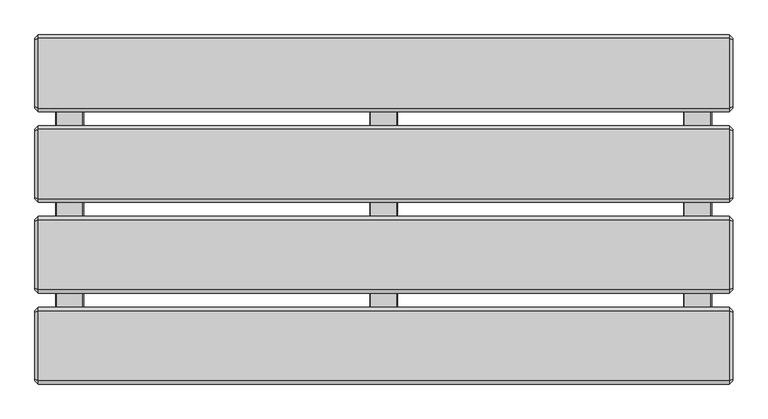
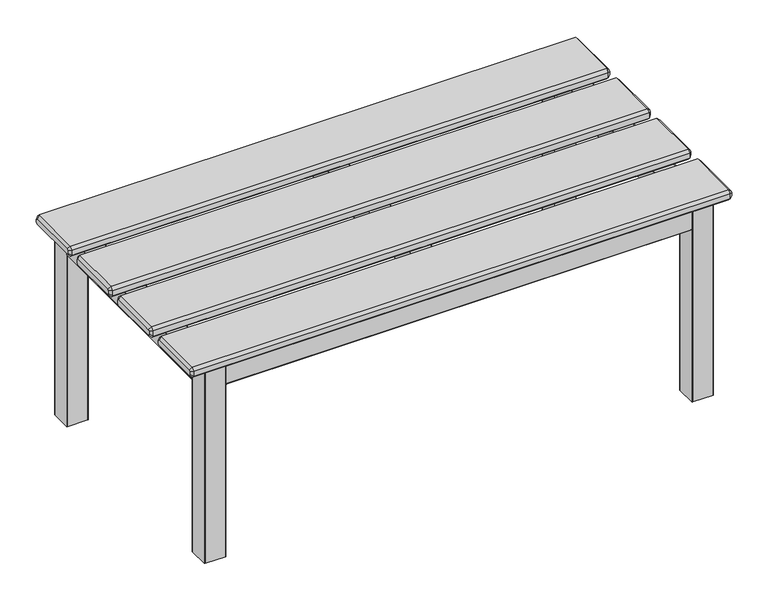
"""IFC4 building model written with IfcOpenShell, lengths in millimetres: furniture geometry, Senator_Lockers_SenseiQ_ChangingRoomBench : SIQ-CRBEN10."""

import ifcopenshell
import ifcopenshell.guid

model = None  # the IFC model being written
_history = None  # IfcOwnerHistory: only IFC2X3 demands one
_inside = {}  # id of a spatial element -> (the spatial element, [elements in it])
_under = {}  # id of a project, library or spatial element -> (it, [spatial elements below it])
_declared = {}  # id of a project -> (the project, [libraries it declares])
_typed = {}  # id of a type object -> (the type object, [elements of that type])
_made_of = {}  # id of a material, layer set ... -> (it, [elements and type objects made of it])


def new_model(schema):
    """Start an empty IFC model of exactly this schema.

    Asked for "IFC4X3", IfcOpenShell would pick the latest addendum, in which some entities
    have other attributes; the version numbers below select the first issue.
    IFC2X3 requires an IfcOwnerHistory on every rooted entity: one is made here for all.
    """
    global model, _history
    if schema == "IFC4X3":
        model = ifcopenshell.file(schema_version=(4, 3, 0, 0))
    else:
        model = ifcopenshell.file(schema=schema)
    _inside.clear()
    _under.clear()
    _declared.clear()
    _typed.clear()
    _made_of.clear()
    _history = None
    if model.schema == "IFC2X3":
        org = make("IfcOrganization", Name="unknown")
        user = make(
            "IfcPersonAndOrganization",
            ThePerson=make("IfcPerson", FamilyName="unknown"),
            TheOrganization=org,
        )
        app = make(
            "IfcApplication",
            ApplicationDeveloper=org,
            Version="unknown",
            ApplicationFullName="unknown",
            ApplicationIdentifier="unknown",
        )
        _history = make(
            "IfcOwnerHistory",
            OwningUser=user,
            OwningApplication=app,
            ChangeAction="ADDED",
            CreationDate=0,
        )
    return model


def make(cls, **values):
    """One entity of the class cls with the attributes given. An attribute that is None is left unset."""
    return model.create_entity(
        cls, **{name: value for name, value in values.items() if value is not None}
    )


def rooted(cls, **values):
    """An entity with a GlobalId (a new one), such as an element, a storey or a relation."""
    return make(cls, GlobalId=ifcopenshell.guid.new(), OwnerHistory=_history, **values)


def si_unit(unit_type, name, prefix=None):
    """IfcSIUnit, for example si_unit("LENGTHUNIT", "METRE", prefix="MILLI")."""
    return make("IfcSIUnit", UnitType=unit_type, Prefix=prefix, Name=name)


def assignment(units):
    """IfcUnitAssignment: the units of a project."""
    return None if units is None else make("IfcUnitAssignment", Units=units)


def point(xyz):
    """IfcCartesianPoint."""
    return None if xyz is None else make("IfcCartesianPoint", Coordinates=xyz)


def direction(xyz):
    """IfcDirection."""
    return None if xyz is None else make("IfcDirection", DirectionRatios=xyz)


def frame(location, z_axis=None, x_axis=None):
    """IfcAxis2Placement3D, a coordinate frame: its origin and axes. An axis left out is left unset."""
    return make(
        "IfcAxis2Placement3D",
        Location=point(location),
        Axis=direction(z_axis),
        RefDirection=direction(x_axis),
    )


def frame_2d(location, x_axis=None):
    """IfcAxis2Placement2D, a coordinate frame in the plane: its origin and x axis."""
    return make(
        "IfcAxis2Placement2D", Location=point(location), RefDirection=direction(x_axis)
    )


def origin():
    """The frame at (0, 0, 0) with its axes left unset."""
    return frame((0.0, 0.0, 0.0))


def origin_with_axes():
    """The frame at (0, 0, 0) with the z axis (0, 0, 1) and the x axis (1, 0, 0) written out."""
    return frame((0.0, 0.0, 0.0), z_axis=(0.0, 0.0, 1.0), x_axis=(1.0, 0.0, 0.0))


def place(relative_to, where):
    """IfcLocalPlacement: puts the frame where relative to a parent placement (None: the world)."""
    return make(
        "IfcLocalPlacement", PlacementRelTo=relative_to, RelativePlacement=where
    )


def context(
    kind, dimensions, precision=None, world=None, true_north=None, identifier=None
):
    """IfcGeometricRepresentationContext, for example the 3D "Model" context."""
    return make(
        "IfcGeometricRepresentationContext",
        ContextIdentifier=identifier,
        ContextType=kind,
        CoordinateSpaceDimension=dimensions,
        Precision=precision,
        WorldCoordinateSystem=world,
        TrueNorth=true_north,
    )


def project(units=None, contexts=None):
    """IfcProject with its units and contexts."""
    return rooted(
        "IfcProject",
        Name="project",
        RepresentationContexts=contexts,
        UnitsInContext=assignment(units),
    )


def spatial(cls, under=None, at=None, **own):
    """A site, building, storey or space (cls), placed at a placement, below another one or the project."""
    s = rooted(cls, ObjectPlacement=at, **own)
    if under is not None:
        _under.setdefault(under.id(), (under, []))[1].append(s)
    return s


def polyline(points):
    """IfcPolyline through the points."""
    return make("IfcPolyline", Points=[point(p) for p in points])


def circle_curve(where, radius):
    """IfcCircle in the frame where."""
    return make("IfcCircle", Position=where, Radius=radius)


def trimmed(basis, trim1, trim2, sense, master):
    """IfcTrimmedCurve: the piece of a basis curve between two trims."""
    return make(
        "IfcTrimmedCurve",
        BasisCurve=basis,
        Trim1=trim1,
        Trim2=trim2,
        SenseAgreement=sense,
        MasterRepresentation=master,
    )


def segment(curve, same_sense, transition):
    """IfcCompositeCurveSegment."""
    return make(
        "IfcCompositeCurveSegment",
        Transition=transition,
        SameSense=same_sense,
        ParentCurve=curve,
    )


def composite_curve(segments, self_intersect=None):
    """IfcCompositeCurve: segments joined end to end."""
    return make("IfcCompositeCurve", Segments=segments, SelfIntersect=self_intersect)


def outline(outer, holes=None, kind="AREA"):
    """IfcArbitraryClosedProfileDef: a profile drawn as a closed curve; with holes, ...WithVoids."""
    if holes is None:
        return make("IfcArbitraryClosedProfileDef", ProfileType=kind, OuterCurve=outer)
    return make(
        "IfcArbitraryProfileDefWithVoids",
        ProfileType=kind,
        OuterCurve=outer,
        InnerCurves=holes,
    )


def extrude(swept, where, along, depth):
    """IfcExtrudedAreaSolid: the profile swept, set in the frame where, extruded along a direction by depth."""
    return make(
        "IfcExtrudedAreaSolid",
        SweptArea=swept,
        Position=where,
        ExtrudedDirection=direction(along),
        Depth=depth,
    )


def faces_of(points, faces, orient=None, outer=None):
    """IfcFace entities. A face is a list of loops; a loop is a list of indices into points, from 0.

    orient and outer hold one flag for each loop. By default every Orientation is true, the
    first loop of a face is its IfcFaceOuterBound and the others are IfcFaceBound.
    """
    made = []
    for i, loops in enumerate(faces):
        bounds = []
        for j, loop in enumerate(loops):
            is_outer = j == 0 if outer is None else outer[i][j]
            bounds.append(
                make(
                    "IfcFaceOuterBound" if is_outer else "IfcFaceBound",
                    Bound=make("IfcPolyLoop", Polygon=[points[k] for k in loop]),
                    Orientation=True if orient is None else orient[i][j],
                )
            )
        made.append(make("IfcFace", Bounds=bounds))
    return made


def faceted_brep(points, faces, orient=None, outer=None, voids=None):
    """IfcFacetedBrep: a solid bounded by flat faces; with voids (closed shells), ...WithVoids."""
    shared = [point(p) for p in points]
    hull = make("IfcClosedShell", CfsFaces=faces_of(shared, faces, orient, outer))
    if voids is None:
        return make("IfcFacetedBrep", Outer=hull)
    return make(
        "IfcFacetedBrepWithVoids",
        Outer=hull,
        Voids=[
            make(cls, CfsFaces=faces_of(shared, fs, o, b)) for cls, fs, o, b in voids
        ],
    )


def shape(context_of_items, identifier, shape_type, items):
    """IfcShapeRepresentation: the items that make up one representation, for example the "Body"."""
    return make(
        "IfcShapeRepresentation",
        ContextOfItems=context_of_items,
        RepresentationIdentifier=identifier,
        RepresentationType=shape_type,
        Items=items,
    )


def source(mapping_origin, context_of_items, identifier, shape_type, items):
    """IfcRepresentationMap: a shape defined once, which mapped items show again and again."""
    return make(
        "IfcRepresentationMap",
        MappingOrigin=mapping_origin,
        MappedRepresentation=shape(context_of_items, identifier, shape_type, items),
    )


def transform(
    local_origin,
    x_axis=None,
    y_axis=None,
    z_axis=None,
    scale=None,
    scale2=None,
    scale3=None,
    uniform=True,
):
    """IfcCartesianTransformationOperator3D, or its non-uniform kind. x_axis, y_axis, z_axis: its Axis1, 2, 3."""
    if uniform:
        return make(
            "IfcCartesianTransformationOperator3D",
            Axis1=direction(x_axis),
            Axis2=direction(y_axis),
            LocalOrigin=point(local_origin),
            Scale=scale,
            Axis3=direction(z_axis),
        )
    return make(
        "IfcCartesianTransformationOperator3DnonUniform",
        Axis1=direction(x_axis),
        Axis2=direction(y_axis),
        LocalOrigin=point(local_origin),
        Scale=scale,
        Axis3=direction(z_axis),
        Scale2=scale2,
        Scale3=scale3,
    )


def mapped(mapping_source, mapping_target):
    """IfcMappedItem: shows the shape of a source again, moved by a transform."""
    return make(
        "IfcMappedItem", MappingSource=mapping_source, MappingTarget=mapping_target
    )


def made_of(thing, what):
    """Note that an element or type object is made of a material, layer set ...; save() writes the relation."""
    if what is not None:
        _made_of.setdefault(what.id(), (what, []))[1].append(thing)
    return thing


def element(
    cls,
    number,
    at=None,
    inside=None,
    cuts=None,
    type_object=None,
    material=None,
    context=None,
    identifier="Body",
    shape_type=None,
    held_by="IfcProductDefinitionShape",
    body=None,
    shapes=None,
    **own,
):
    """One element of the class cls, such as IfcWall. Its Tag is "e" and its number.

    at: its placement. inside: the storey or other place that contains it. cuts: it is an
    opening in that element (IfcRelVoidsElement). A single representation is given by context,
    identifier, shape_type and body (its items); several are given by shapes. held_by: the class
    of the entity that holds the representations. save() writes the other relations.
    """
    e = rooted(cls, Tag="e%d" % number, ObjectPlacement=at, **own)
    if body is not None:
        shapes = [shape(context, identifier, shape_type, body)]
    if shapes is not None:
        e.Representation = make(held_by, Representations=shapes)
    if inside is not None:
        _inside.setdefault(inside.id(), (inside, []))[1].append(e)
    if cuts is not None:
        rooted(
            "IfcRelVoidsElement", RelatingBuildingElement=cuts, RelatedOpeningElement=e
        )
    if type_object is not None:
        _typed.setdefault(type_object.id(), (type_object, []))[1].append(e)
    return made_of(e, material)


def aggregate(whole, parts):
    """IfcRelAggregates: a whole, such as a stair, and the parts it consists of."""
    return rooted("IfcRelAggregates", RelatingObject=whole, RelatedObjects=parts)


def save(model, path):
    """Write the relations noted so far, then the file.

    IfcRelAggregates (storeys below a building ...), IfcRelContainedInSpatialStructure (elements
    in a storey), IfcRelDefinesByType, IfcRelAssociatesMaterial and IfcRelDeclares: one each for
    every whole, place, type object, material and project.
    """
    for whole, parts in _under.values():
        aggregate(whole, parts)
    for where, things in _inside.values():
        rooted(
            "IfcRelContainedInSpatialStructure",
            RelatedElements=things,
            RelatingStructure=where,
        )
    for kind, things in _typed.values():
        rooted("IfcRelDefinesByType", RelatedObjects=things, RelatingType=kind)
    for what, things in _made_of.values():
        rooted("IfcRelAssociatesMaterial", RelatedObjects=things, RelatingMaterial=what)
    for by, libraries in _declared.values():
        rooted("IfcRelDeclares", RelatingContext=by, RelatedDefinitions=libraries)
    model.write(path)


def furniture_93ed110c(model_context):
    return source(origin(), model_context, "Body", "SolidModel", [
        faceted_brep([(-100.0, 242.9289322, 395.0), (-100.0, 245.0, 392.9289322), (-100.0, 245.0, 387.0824356), (-100.0, 242.9289322, 385.0113678), (-100.0, 147.0824404, 385.0113678), (-100.0, 145.0113726, 387.0824356), (-100.0, 145.0113726, 392.9289322), (-100.0, 147.0824404, 395.0), (900.0, 147.0824404, 395.0), (900.0, 145.0113726, 392.9289322), (900.0, 145.0113726, 387.0824356), (900.0, 147.0824404, 385.0113678), (900.0, 242.9289322, 385.0113678), (900.0, 245.0, 387.0824356), (900.0, 245.0, 392.9289322), (900.0, 242.9289322, 395.0), (895.0, 145.0113726, 400.0), (895.0, 245.0, 400.0), (-95.0, 245.0, 400.0), (-95.0, 145.0113726, 400.0), (895.0, 250.0, 395.0), (-95.0, 250.0, 395.0), (895.0, 250.0, 385.0113678), (-95.0, 250.0, 385.0113678), (895.0, 245.0, 380.0113678), (-95.0, 245.0, 380.0113678), (895.0, 145.0113726, 380.0113678), (-95.0, 145.0113726, 380.0113678), (895.0, 140.0113726, 385.0113678), (-95.0, 140.0113726, 385.0113678), (895.0, 140.0113726, 395.0), (-95.0, 140.0113726, 395.0)], [[[0, 1, 2, 3, 4, 5, 6, 7]], [[8, 9, 10, 11, 12, 13, 14, 15]], [[16, 17, 18, 19]], [[17, 20, 21, 18]], [[20, 22, 23, 21]], [[22, 24, 25, 23]], [[24, 26, 27, 25]], [[26, 28, 29, 27]], [[28, 30, 31, 29]], [[30, 16, 19, 31]], [[30, 9, 8, 16]], [[9, 30, 28, 10]], [[10, 28, 26, 11]], [[11, 26, 24, 12]], [[12, 24, 22, 13]], [[13, 22, 20, 14]], [[14, 20, 17, 15]], [[16, 8, 15, 17]], [[21, 1, 0, 18]], [[1, 21, 23, 2]], [[2, 23, 25, 3]], [[3, 25, 27, 4]], [[4, 27, 29, 5]], [[5, 29, 31, 6]], [[6, 31, 19, 7]], [[18, 0, 7, 19]]]),
        faceted_brep([(-100.0, 112.9289322, 395.0), (-100.0, 115.0, 392.9289322), (-100.0, 115.0, 387.0824356), (-100.0, 112.9289322, 385.0113678), (-100.0, 17.0824404, 385.0113678), (-100.0, 15.0113726, 387.0824356), (-100.0, 15.0113726, 392.9289322), (-100.0, 17.0824404, 395.0), (900.0, 17.0824404, 395.0), (900.0, 15.0113726, 392.9289322), (900.0, 15.0113726, 387.0824356), (900.0, 17.0824404, 385.0113678), (900.0, 112.9289322, 385.0113678), (900.0, 115.0, 387.0824356), (900.0, 115.0, 392.9289322), (900.0, 112.9289322, 395.0), (895.0, 15.0113726, 400.0), (895.0, 115.0, 400.0), (-95.0, 115.0, 400.0), (-95.0, 15.0113726, 400.0), (895.0, 120.0, 395.0), (-95.0, 120.0, 395.0), (895.0, 120.0, 385.0113678), (-95.0, 120.0, 385.0113678), (895.0, 115.0, 380.0113678), (-95.0, 115.0, 380.0113678), (895.0, 15.0113726, 380.0113678), (-95.0, 15.0113726, 380.0113678), (895.0, 10.0113726, 385.0113678), (-95.0, 10.0113726, 385.0113678), (895.0, 10.0113726, 395.0), (-95.0, 10.0113726, 395.0)], [[[0, 1, 2, 3, 4, 5, 6, 7]], [[8, 9, 10, 11, 12, 13, 14, 15]], [[16, 17, 18, 19]], [[17, 20, 21, 18]], [[20, 22, 23, 21]], [[22, 24, 25, 23]], [[24, 26, 27, 25]], [[26, 28, 29, 27]], [[28, 30, 31, 29]], [[30, 16, 19, 31]], [[30, 9, 8, 16]], [[9, 30, 28, 10]], [[10, 28, 26, 11]], [[11, 26, 24, 12]], [[12, 24, 22, 13]], [[13, 22, 20, 14]], [[14, 20, 17, 15]], [[16, 8, 15, 17]], [[21, 1, 0, 18]], [[1, 21, 23, 2]], [[2, 23, 25, 3]], [[3, 25, 27, 4]], [[4, 27, 29, 5]], [[5, 29, 31, 6]], [[6, 31, 19, 7]], [[18, 0, 7, 19]]]),
        faceted_brep([(-100.0, -17.0824404, 395.0), (-100.0, -15.0113726, 392.9289322), (-100.0, -15.0113726, 387.0824356), (-100.0, -17.0824404, 385.0113678), (-100.0, -112.9289322, 385.0113678), (-100.0, -115.0, 387.0824356), (-100.0, -115.0, 392.9289322), (-100.0, -112.9289322, 395.0), (900.0, -112.9289322, 395.0), (900.0, -115.0, 392.9289322), (900.0, -115.0, 387.0824356), (900.0, -112.9289322, 385.0113678), (900.0, -17.0824404, 385.0113678), (900.0, -15.0113726, 387.0824356), (900.0, -15.0113726, 392.9289322), (900.0, -17.0824404, 395.0), (895.0, -15.0113726, 400.0), (895.0, -10.0113726, 395.0), (-95.0, -10.0113726, 395.0), (-95.0, -15.0113726, 400.0), (895.0, -10.0113726, 385.0113678), (-95.0, -10.0113726, 385.0113678), (895.0, -15.0113726, 380.0113678), (-95.0, -15.0113726, 380.0113678), (895.0, -115.0, 380.0113678), (-95.0, -115.0, 380.0113678), (895.0, -120.0, 385.0113678), (-95.0, -120.0, 385.0113678), (895.0, -120.0, 395.0), (-95.0, -120.0, 395.0), (895.0, -115.0, 400.0), (-95.0, -115.0, 400.0)], [[[0, 1, 2, 3, 4, 5, 6, 7]], [[8, 9, 10, 11, 12, 13, 14, 15]], [[16, 17, 18, 19]], [[17, 20, 21, 18]], [[20, 22, 23, 21]], [[22, 24, 25, 23]], [[24, 26, 27, 25]], [[26, 28, 29, 27]], [[28, 30, 31, 29]], [[30, 16, 19, 31]], [[28, 9, 8, 30]], [[9, 28, 26, 10]], [[10, 26, 24, 11]], [[11, 24, 22, 12]], [[12, 22, 20, 13]], [[13, 20, 17, 14]], [[14, 17, 16, 15]], [[30, 8, 15, 16]], [[18, 1, 0, 19]], [[1, 18, 21, 2]], [[2, 21, 23, 3]], [[3, 23, 25, 4]], [[4, 25, 27, 5]], [[5, 27, 29, 6]], [[6, 29, 31, 7]], [[19, 0, 7, 31]]]),
        faceted_brep([(-100.0, -147.0824404, 395.0), (-100.0, -145.0113726, 392.9289322), (-100.0, -145.0113726, 387.0824356), (-100.0, -147.0824404, 385.0113678), (-100.0, -242.9289322, 385.0113678), (-100.0, -245.0, 387.0824356), (-100.0, -245.0, 392.9289322), (-100.0, -242.9289322, 395.0), (900.0, -242.9289322, 395.0), (900.0, -245.0, 392.9289322), (900.0, -245.0, 387.0824356), (900.0, -242.9289322, 385.0113678), (900.0, -147.0824404, 385.0113678), (900.0, -145.0113726, 387.0824356), (900.0, -145.0113726, 392.9289322), (900.0, -147.0824404, 395.0), (895.0, -145.0113726, 400.0), (895.0, -140.0113726, 395.0), (-95.0, -140.0113726, 395.0), (-95.0, -145.0113726, 400.0), (895.0, -140.0113726, 385.0113678), (-95.0, -140.0113726, 385.0113678), (895.0, -145.0113726, 380.0113678), (-95.0, -145.0113726, 380.0113678), (895.0, -245.0, 380.0113678), (-95.0, -245.0, 380.0113678), (895.0, -250.0, 385.0113678), (-95.0, -250.0, 385.0113678), (895.0, -250.0, 395.0), (-95.0, -250.0, 395.0), (895.0, -245.0, 400.0), (-95.0, -245.0, 400.0)], [[[0, 1, 2, 3, 4, 5, 6, 7]], [[8, 9, 10, 11, 12, 13, 14, 15]], [[16, 17, 18, 19]], [[17, 20, 21, 18]], [[20, 22, 23, 21]], [[22, 24, 25, 23]], [[24, 26, 27, 25]], [[26, 28, 29, 27]], [[28, 30, 31, 29]], [[30, 16, 19, 31]], [[28, 9, 8, 30]], [[9, 28, 26, 10]], [[10, 26, 24, 11]], [[11, 24, 22, 12]], [[12, 22, 20, 13]], [[13, 20, 17, 14]], [[14, 17, 16, 15]], [[30, 8, 15, 16]], [[18, 1, 0, 19]], [[1, 18, 21, 2]], [[2, 21, 23, 3]], [[3, 23, 25, 4]], [[4, 25, 27, 5]], [[5, 27, 29, 6]], [[6, 29, 31, 7]], [[19, 0, 7, 31]]]),
        extrude(outline(composite_curve([segment(trimmed(circle_curve(frame_2d((856.9282079, 232.0000877)), 1.0), [point((856.9282079, 233.0000877))], [point((857.7942342, 232.5000863))], False, "CARTESIAN"), True, "CONTINUOUS"), segment(polyline([(857.7942342, 232.5000863), (864.7204614, 220.4999608)]), True, "CONTINUOUS"), segment(trimmed(circle_curve(frame_2d((863.8544351, 219.9999622)), 1.0), [point((864.7204614, 220.4999608))], [point((864.720461, 219.4999631))], False, "CARTESIAN"), True, "CONTINUOUS"), segment(polyline([(864.720461, 219.4999631), (857.7922784, 207.4999704)]), True, "CONTINUOUS"), segment(trimmed(circle_curve(frame_2d((856.9262525, 207.9999695)), 1.0), [point((857.7922784, 207.4999704))], [point((856.9262525, 206.9999695))], False, "CARTESIAN"), True, "CONTINUOUS"), segment(polyline([(856.9262525, 206.9999695), (843.0717713, 206.9999695)]), True, "CONTINUOUS"), segment(trimmed(circle_curve(frame_2d((843.0717713, 207.9999695)), 1.0), [point((843.0717713, 206.9999695))], [point((842.2057454, 207.4999704))], False, "CARTESIAN"), True, "CONTINUOUS"), segment(polyline([(842.2057454, 207.4999704), (835.2775628, 219.4999631)]), True, "CONTINUOUS"), segment(trimmed(circle_curve(frame_2d((836.1435887, 219.9999622)), 1.0), [point((835.2775628, 219.4999631))], [point((835.2775625, 220.4999608))], False, "CARTESIAN"), True, "CONTINUOUS"), segment(polyline([(835.2775625, 220.4999608), (842.2057455, 232.4999719)]), True, "CONTINUOUS"), segment(trimmed(circle_curve(frame_2d((843.0717718, 232.0002021)), 0.9998856), [point((842.2057455, 232.4999719))], [point((843.0717718, 233.0000877))], False, "CARTESIAN"), True, "CONTINUOUS"), segment(polyline([(843.0717718, 233.0000877), (856.9282079, 233.0000877)]), True, "CONTINUOUS")], self_intersect=False)), origin_with_axes(), (0.0, 0.0, 1.0), 4.999944),
        extrude(outline(composite_curve([segment(polyline([(856.9282181, -232.9999733), (843.0717819, -232.9999733)]), True, "CONTINUOUS"), segment(trimmed(circle_curve(frame_2d((843.0717819, -231.9999733)), 1.0), [point((843.0717819, -232.9999733))], [point((842.2057557, -232.4999719))], False, "CARTESIAN"), True, "CONTINUOUS"), segment(polyline([(842.2057557, -232.4999719), (835.2775726, -220.4999608)]), True, "CONTINUOUS"), segment(trimmed(circle_curve(frame_2d((836.1435989, -219.9999622)), 1.0), [point((835.2775726, -220.4999608))], [point((835.277573, -219.4999631))], False, "CARTESIAN"), True, "CONTINUOUS"), segment(polyline([(835.277573, -219.4999631), (842.2057556, -207.5000848)]), True, "CONTINUOUS"), segment(trimmed(circle_curve(frame_2d((843.0717815, -208.0000839)), 1.0), [point((842.2057556, -207.5000848))], [point((843.0717815, -207.0000839))], False, "CARTESIAN"), True, "CONTINUOUS"), segment(polyline([(843.0717815, -207.0000839), (856.9262424, -207.0000839)]), True, "CONTINUOUS"), segment(trimmed(circle_curve(frame_2d((856.9262424, -208.0001984)), 1.0001145), [point((856.9262424, -207.0000839))], [point((857.7922683, -207.4999704))], False, "CARTESIAN"), True, "CONTINUOUS"), segment(polyline([(857.7922683, -207.4999704), (864.7204509, -219.4999631)]), True, "CONTINUOUS"), segment(trimmed(circle_curve(frame_2d((863.854425, -219.9999622)), 1.0), [point((864.7204509, -219.4999631))], [point((864.7204512, -220.4999608))], False, "CARTESIAN"), True, "CONTINUOUS"), segment(polyline([(864.7204512, -220.4999608), (857.7942443, -232.4999719)]), True, "CONTINUOUS"), segment(trimmed(circle_curve(frame_2d((856.9282181, -231.9999733)), 1.0), [point((857.7942443, -232.4999719))], [point((856.9282181, -232.9999733))], False, "CARTESIAN"), True, "CONTINUOUS")], self_intersect=False)), origin_with_axes(), (0.0, 0.0, 1.0), 4.999944),
        extrude(outline(composite_curve([segment(trimmed(circle_curve(frame_2d((-56.9282181, -231.9999733)), 1.0), [point((-56.9282181, -232.9999733))], [point((-57.7943061, -232.4998649))], False, "CARTESIAN"), True, "CONTINUOUS"), segment(polyline([(-57.7943061, -232.4998649), (-64.67642, -220.4998616)]), True, "CONTINUOUS"), segment(trimmed(circle_curve(frame_2d((-63.8103455, -219.9999622)), 0.9999922), [point((-64.67642, -220.4998616))], [point((-64.6763624, -219.4999631))], False, "CARTESIAN"), True, "CONTINUOUS"), segment(polyline([(-64.6763624, -219.4999631), (-57.7923674, -207.5001421)]), True, "CONTINUOUS"), segment(trimmed(circle_curve(frame_2d((-56.9262424, -208.0001984)), 1.0001145), [point((-57.7923674, -207.5001421))], [point((-56.9262424, -207.0000839))], False, "CARTESIAN"), True, "CONTINUOUS"), segment(polyline([(-56.9262424, -207.0000839), (-43.0717815, -207.0000839)]), True, "CONTINUOUS"), segment(trimmed(circle_curve(frame_2d((-43.0717815, -208.0000839)), 1.0), [point((-43.0717815, -207.0000839))], [point((-42.2057576, -207.5000812))], False, "CARTESIAN"), True, "CONTINUOUS"), segment(polyline([(-42.2057576, -207.5000812), (-35.2335331, -219.4999595)]), True, "CONTINUOUS"), segment(trimmed(circle_curve(frame_2d((-36.0995502, -219.999953)), 0.9999895), [point((-35.2335331, -219.4999595))], [point((-35.2335414, -220.4999608))], False, "CARTESIAN"), True, "CONTINUOUS"), segment(polyline([(-35.2335414, -220.4999608), (-42.2057557, -232.4999719)]), True, "CONTINUOUS"), segment(trimmed(circle_curve(frame_2d((-43.0717819, -231.9999733)), 1.0), [point((-42.2057557, -232.4999719))], [point((-43.0717819, -232.9999733))], False, "CARTESIAN"), True, "CONTINUOUS"), segment(polyline([(-43.0717819, -232.9999733), (-56.9282181, -232.9999733)]), True, "CONTINUOUS")], self_intersect=False)), origin_with_axes(), (0.0, 0.0, 1.0), 4.999944),
        extrude(outline(composite_curve([segment(polyline([(-56.9282079, 233.0000877), (-43.0717718, 233.0000877)]), True, "CONTINUOUS"), segment(trimmed(circle_curve(frame_2d((-43.0717718, 232.0002021)), 0.9998856), [point((-43.0717718, 233.0000877))], [point((-42.2058446, 232.5001435))], False, "CARTESIAN"), True, "CONTINUOUS"), segment(polyline([(-42.2058446, 232.5001435), (-35.2335313, 220.4999626)]), True, "CONTINUOUS"), segment(trimmed(circle_curve(frame_2d((-36.0995401, 219.9999558)), 0.9999891), [point((-35.2335313, 220.4999626))], [point((-35.2335205, 219.4999677))], False, "CARTESIAN"), True, "CONTINUOUS"), segment(polyline([(-35.2335205, 219.4999677), (-42.2057454, 207.4999704)]), True, "CONTINUOUS"), segment(trimmed(circle_curve(frame_2d((-43.0717713, 207.9999695)), 1.0), [point((-42.2057454, 207.4999704))], [point((-43.0717713, 206.9999695))], False, "CARTESIAN"), True, "CONTINUOUS"), segment(polyline([(-43.0717713, 206.9999695), (-56.9262525, 206.9999695)]), True, "CONTINUOUS"), segment(trimmed(circle_curve(frame_2d((-56.9262525, 207.9999695)), 1.0), [point((-56.9262525, 206.9999695))], [point((-57.7922784, 207.4999704))], False, "CARTESIAN"), True, "CONTINUOUS"), segment(polyline([(-57.7922784, 207.4999704), (-64.6763777, 219.4999677)]), True, "CONTINUOUS"), segment(trimmed(circle_curve(frame_2d((-63.8103581, 219.9999558)), 0.9999891), [point((-64.6763777, 219.4999677))], [point((-64.6764301, 220.4998532))], False, "CARTESIAN"), True, "CONTINUOUS"), segment(polyline([(-64.6764301, 220.4998532), (-57.7942973, 232.4999768)]), True, "CONTINUOUS"), segment(trimmed(circle_curve(frame_2d((-56.9282079, 232.0000877)), 1.0), [point((-57.7942973, 232.4999768))], [point((-56.9282079, 233.0000877))], False, "CARTESIAN"), True, "CONTINUOUS")], self_intersect=False)), origin_with_axes(), (0.0, 0.0, 1.0), 4.999944),
        extrude(outline(composite_curve([segment(polyline([(-239.1840744, 341.0395211), (-239.1840744, 378.9999905)]), True, "CONTINUOUS"), segment(trimmed(circle_curve(frame_2d((-238.1840744, 378.9999905)), 1.0), [point((-239.1840744, 378.9999905))], [point((-238.1840744, 379.9999905))], False, "CARTESIAN"), True, "CONTINUOUS"), segment(polyline([(-238.1840744, 379.9999905), (-201.8159733, 379.9999905)]), True, "CONTINUOUS"), segment(trimmed(circle_curve(frame_2d((-201.8159733, 379.0)), 0.9999905), [point((-201.8159733, 379.9999905))], [point((-200.8159828, 379.0))], False, "CARTESIAN"), True, "CONTINUOUS"), segment(polyline([(-200.8159828, 379.0), (-200.8159828, 341.0395211)]), True, "CONTINUOUS"), segment(trimmed(circle_curve(frame_2d((-201.8159828, 341.0395211)), 1.0), [point((-200.8159828, 341.0395211))], [point((-201.8159828, 340.0395211))], False, "CARTESIAN"), True, "CONTINUOUS"), segment(polyline([(-201.8159828, 340.0395211), (-238.1840744, 340.0395211)]), True, "CONTINUOUS"), segment(trimmed(circle_curve(frame_2d((-238.1840744, 341.0395211)), 1.0), [point((-238.1840744, 340.0395211))], [point((-239.1840744, 341.0395211))], False, "CARTESIAN"), True, "CONTINUOUS")], self_intersect=False)), frame((-29.9648105, 0.0, 0.0), z_axis=(1.0, 0.0, 0.0), x_axis=(0.0, 1.0, 0.0)), (0.0, 0.0, 1.0), 859.929621),
        extrude(outline(composite_curve([segment(trimmed(circle_curve(frame_2d((238.1840744, 341.0395211)), 1.0), [point((239.1840744, 341.0395211))], [point((238.1840744, 340.0395211))], False, "CARTESIAN"), True, "CONTINUOUS"), segment(polyline([(238.1840744, 340.0395211), (201.8159828, 340.0395211)]), True, "CONTINUOUS"), segment(trimmed(circle_curve(frame_2d((201.8159828, 341.0395211)), 1.0), [point((201.8159828, 340.0395211))], [point((200.8159828, 341.0395211))], False, "CARTESIAN"), True, "CONTINUOUS"), segment(polyline([(200.8159828, 341.0395211), (200.8159828, 378.9999905)]), True, "CONTINUOUS"), segment(trimmed(circle_curve(frame_2d((201.8159828, 378.9999905)), 1.0), [point((200.8159828, 378.9999905))], [point((201.8159828, 379.9999905))], False, "CARTESIAN"), True, "CONTINUOUS"), segment(polyline([(201.8159828, 379.9999905), (238.1840839, 379.9999905)]), True, "CONTINUOUS"), segment(trimmed(circle_curve(frame_2d((238.1840839, 379.0)), 0.9999905), [point((238.1840839, 379.9999905))], [point((239.1840744, 379.0))], False, "CARTESIAN"), True, "CONTINUOUS"), segment(polyline([(239.1840744, 379.0), (239.1840744, 341.0395211)]), True, "CONTINUOUS")], self_intersect=False)), frame((-29.9648105, 0.0, 0.0), z_axis=(1.0, 0.0, 0.0), x_axis=(0.0, 1.0, 0.0)), (0.0, 0.0, 1.0), 859.929621),
        extrude(outline(composite_curve([segment(polyline([(378.9664172, 380.0351059), (341.0350952, 380.0351059)]), True, "CONTINUOUS"), segment(trimmed(circle_curve(frame_2d((341.0350952, 381.0351059)), 1.0), [point((341.0350952, 380.0351059))], [point((340.0350952, 381.0351059))], False, "CARTESIAN"), True, "CONTINUOUS"), segment(polyline([(340.0350952, 381.0351059), (340.0350952, 418.9648941)]), True, "CONTINUOUS"), segment(trimmed(circle_curve(frame_2d((341.0350952, 418.9648941)), 1.0), [point((340.0350952, 418.9648941))], [point((341.0350952, 419.9648941))], False, "CARTESIAN"), True, "CONTINUOUS"), segment(polyline([(341.0350952, 419.9648941), (378.9664172, 419.9648941)]), True, "CONTINUOUS"), segment(trimmed(circle_curve(frame_2d((378.9664172, 418.9648941)), 1.0), [point((378.9664172, 419.9648941))], [point((379.9664172, 418.9648941))], False, "CARTESIAN"), True, "CONTINUOUS"), segment(polyline([(379.9664172, 418.9648941), (379.9664172, 381.0351059)]), True, "CONTINUOUS"), segment(trimmed(circle_curve(frame_2d((378.9664172, 381.0351059)), 1.0), [point((379.9664172, 381.0351059))], [point((378.9664172, 380.0351059))], False, "CARTESIAN"), True, "CONTINUOUS")], self_intersect=False)), frame((0.0, -200.0000286, 0.0), z_axis=(0.0, 1.0, 0.0), x_axis=(0.0, 0.0, 1.0)), (0.0, 0.0, 1.0), 400.0000572),
        extrude(outline(composite_curve([segment(polyline([(378.9664172, -69.9549807), (341.1231577, -69.9549807)]), True, "CONTINUOUS"), segment(trimmed(circle_curve(frame_2d((341.1231577, -68.9549807)), 1.0), [point((341.1231577, -69.9549807))], [point((340.1231577, -68.9549807))], False, "CARTESIAN"), True, "CONTINUOUS"), segment(polyline([(340.1231577, -68.9549807), (340.1231577, -31.2110731)]), True, "CONTINUOUS"), segment(trimmed(circle_curve(frame_2d((341.3792501, -31.2110731)), 1.2560924), [point((340.1231577, -31.2110731))], [point((341.3792501, -29.9549807))], False, "CARTESIAN"), True, "CONTINUOUS"), segment(polyline([(341.3792501, -29.9549807), (378.6222623, -29.9549807)]), True, "CONTINUOUS"), segment(trimmed(circle_curve(frame_2d((378.6222623, -31.2991356)), 1.3441549), [point((378.6222623, -29.9549807))], [point((379.9664172, -31.2991356))], False, "CARTESIAN"), True, "CONTINUOUS"), segment(polyline([(379.9664172, -31.2991356), (379.9664172, -68.9549807)]), True, "CONTINUOUS"), segment(trimmed(circle_curve(frame_2d((378.9664172, -68.9549807)), 1.0), [point((379.9664172, -68.9549807))], [point((378.9664172, -69.9549807))], False, "CARTESIAN"), True, "CONTINUOUS")], self_intersect=False)), frame((0.0, -200.0000286, 0.0), z_axis=(0.0, 1.0, 0.0), x_axis=(0.0, 0.0, 1.0)), (0.0, 0.0, 1.0), 400.0000572),
        extrude(outline(composite_curve([segment(trimmed(circle_curve(frame_2d((378.6382939, 868.6699006)), 1.3281233), [point((378.6382939, 869.9980239))], [point((379.9664172, 868.6699006))], False, "CARTESIAN"), True, "CONTINUOUS"), segment(polyline([(379.9664172, 868.6699006), (379.9664172, 831.0)]), True, "CONTINUOUS"), segment(trimmed(circle_curve(frame_2d((378.9664172, 831.0)), 1.0), [point((379.9664172, 831.0))], [point((378.9664172, 830.0))], False, "CARTESIAN"), True, "CONTINUOUS"), segment(polyline([(378.9664172, 830.0), (341.0350952, 830.0)]), True, "CONTINUOUS"), segment(trimmed(circle_curve(frame_2d((341.0350952, 831.0)), 1.0), [point((341.0350952, 830.0))], [point((340.0350952, 831.0))], False, "CARTESIAN"), True, "CONTINUOUS"), segment(polyline([(340.0350952, 831.0), (340.0350952, 868.6718767)]), True, "CONTINUOUS"), segment(trimmed(circle_curve(frame_2d((341.3612424, 868.6718767)), 1.3261471), [point((340.0350952, 868.6718767))], [point((341.3612424, 869.9980239))], False, "CARTESIAN"), True, "CONTINUOUS"), segment(polyline([(341.3612424, 869.9980239), (378.6382939, 869.9980239)]), True, "CONTINUOUS")], self_intersect=False)), frame((0.0, -200.0000286, 0.0), z_axis=(0.0, 1.0, 0.0), x_axis=(0.0, 0.0, 1.0)), (0.0, 0.0, 1.0), 400.0000572),
        extrude(outline(composite_curve([segment(trimmed(circle_curve(frame_2d((-31.3945577, -201.4297759)), 1.4297473), [point((-31.3945577, -200.0000286))], [point((-29.9648105, -201.4297759))], False, "CARTESIAN"), True, "CONTINUOUS"), segment(polyline([(-29.9648105, -201.4297759), (-29.9648105, -238.9926958)]), True, "CONTINUOUS"), segment(trimmed(circle_curve(frame_2d((-30.9721433, -238.9926958)), 1.0073328), [point((-29.9648105, -238.9926958))], [point((-30.9721433, -240.0000286))], False, "CARTESIAN"), True, "CONTINUOUS"), segment(polyline([(-30.9721433, -240.0000286), (-68.9183694, -240.0000286)]), True, "CONTINUOUS"), segment(trimmed(circle_curve(frame_2d((-68.9183694, -238.9732471)), 1.0267815), [point((-68.9183694, -240.0000286))], [point((-69.9451509, -238.9732471))], False, "CARTESIAN"), True, "CONTINUOUS"), segment(polyline([(-69.9451509, -238.9732471), (-69.9451509, -201.4292618)]), True, "CONTINUOUS"), segment(trimmed(circle_curve(frame_2d((-68.5159178, -201.4292618)), 1.4292332), [point((-69.9451509, -201.4292618))], [point((-68.5159178, -200.0000286))], False, "CARTESIAN"), True, "CONTINUOUS"), segment(polyline([(-68.5159178, -200.0000286), (-31.3945577, -200.0000286)]), True, "CONTINUOUS")], self_intersect=False)), frame((0.0, 0.0, 4.999944), z_axis=(0.0, 0.0, 1.0), x_axis=(1.0, 0.0, 0.0)), (0.0, 0.0, 1.0), 375.000056),
        extrude(outline(composite_curve([segment(polyline([(-30.9961763, 200.0), (-68.9142992, 200.0)]), True, "CONTINUOUS"), segment(trimmed(circle_curve(frame_2d((-68.9142992, 201.0308517)), 1.0308517), [point((-68.9142992, 200.0))], [point((-69.9451509, 201.0308517))], False, "CARTESIAN"), True, "CONTINUOUS"), segment(polyline([(-69.9451509, 201.0308517), (-69.9451509, 238.9732566)]), True, "CONTINUOUS"), segment(trimmed(circle_curve(frame_2d((-68.9183694, 238.9732566)), 1.0267815), [point((-69.9451509, 238.9732566))], [point((-68.9183694, 240.0000381))], False, "CARTESIAN"), True, "CONTINUOUS"), segment(polyline([(-68.9183694, 240.0000381), (-30.9721433, 240.0000381)]), True, "CONTINUOUS"), segment(trimmed(circle_curve(frame_2d((-30.9721433, 238.9927053)), 1.0073328), [point((-30.9721433, 240.0000381))], [point((-29.9648105, 238.9927053))], False, "CARTESIAN"), True, "CONTINUOUS"), segment(polyline([(-29.9648105, 238.9927053), (-29.9648105, 201.0313658)]), True, "CONTINUOUS"), segment(trimmed(circle_curve(frame_2d((-30.9961763, 201.0313658)), 1.0313658), [point((-29.9648105, 201.0313658))], [point((-30.9961763, 200.0))], False, "CARTESIAN"), True, "CONTINUOUS")], self_intersect=False)), frame((0.0, 0.0, 4.999944), z_axis=(0.0, 0.0, 1.0), x_axis=(1.0, 0.0, 0.0)), (0.0, 0.0, 1.0), 375.000056),
        extrude(outline(composite_curve([segment(polyline([(830.9961763, -200.0000286), (869.0023617, -200.0000286)]), True, "CONTINUOUS"), segment(trimmed(circle_curve(frame_2d((869.0023617, -201.0308803)), 1.0308517), [point((869.0023617, -200.0000286))], [point((870.0332134, -201.0308803))], False, "CARTESIAN"), True, "CONTINUOUS"), segment(polyline([(870.0332134, -201.0308803), (870.0332134, -238.9732471)]), True, "CONTINUOUS"), segment(trimmed(circle_curve(frame_2d((869.0064319, -238.9732471)), 1.0267815), [point((870.0332134, -238.9732471))], [point((869.0064319, -240.0000286))], False, "CARTESIAN"), True, "CONTINUOUS"), segment(polyline([(869.0064319, -240.0000286), (830.9721433, -240.0000286)]), True, "CONTINUOUS"), segment(trimmed(circle_curve(frame_2d((830.9721433, -238.9926958)), 1.0073328), [point((830.9721433, -240.0000286))], [point((829.9648105, -238.9926958))], False, "CARTESIAN"), True, "CONTINUOUS"), segment(polyline([(829.9648105, -238.9926958), (829.9648105, -201.0313944)]), True, "CONTINUOUS"), segment(trimmed(circle_curve(frame_2d((830.9961763, -201.0313944)), 1.0313658), [point((829.9648105, -201.0313944))], [point((830.9961763, -200.0000286))], False, "CARTESIAN"), True, "CONTINUOUS")], self_intersect=False)), frame((0.0, 0.0, 4.999944), z_axis=(0.0, 0.0, 1.0), x_axis=(1.0, 0.0, 0.0)), (0.0, 0.0, 1.0), 375.000056),
        extrude(outline(composite_curve([segment(trimmed(circle_curve(frame_2d((830.9961763, 201.0313658)), 1.0313658), [point((830.9961763, 200.0))], [point((829.9648105, 201.0313658))], False, "CARTESIAN"), True, "CONTINUOUS"), segment(polyline([(829.9648105, 201.0313658), (829.9648105, 238.9927244)]), True, "CONTINUOUS"), segment(trimmed(circle_curve(frame_2d((830.9721433, 238.9927244)), 1.0073328), [point((829.9648105, 238.9927244))], [point((830.9721433, 240.0000572))], False, "CARTESIAN"), True, "CONTINUOUS"), segment(polyline([(830.9721433, 240.0000572), (869.0064319, 240.0000572)]), True, "CONTINUOUS"), segment(trimmed(circle_curve(frame_2d((869.0064319, 238.9732757)), 1.0267815), [point((869.0064319, 240.0000572))], [point((870.0332134, 238.9732757))], False, "CARTESIAN"), True, "CONTINUOUS"), segment(polyline([(870.0332134, 238.9732757), (870.0332134, 201.0994655)]), True, "CONTINUOUS"), segment(trimmed(circle_curve(frame_2d((868.9337479, 201.0994655)), 1.0994655), [point((870.0332134, 201.0994655))], [point((868.9337479, 200.0))], False, "CARTESIAN"), True, "CONTINUOUS"), segment(polyline([(868.9337479, 200.0), (830.9961763, 200.0)]), True, "CONTINUOUS")], self_intersect=False)), frame((0.0, 0.0, 4.999944), z_axis=(0.0, 0.0, 1.0), x_axis=(1.0, 0.0, 0.0)), (0.0, 0.0, 1.0), 375.000056),
    ])


if __name__ == "__main__":
    model = new_model("IFC4")
    model_context = context("Model", 3, world=origin())
    ifc_project = project(units=[si_unit("LENGTHUNIT", "METRE", prefix="MILLI")], contexts=[model_context])
    site = spatial("IfcSite", under=ifc_project)
    building = spatial("IfcBuilding", under=site)
    placement = place(None, origin())
    furniture_shape = furniture_93ed110c(model_context)
    element("IfcFurniture", 1, ObjectType="Senator_Lockers_SenseiQ_ChangingRoomBench : SIQ-CRBEN10", at=placement, inside=building, context=model_context, shape_type="MappedRepresentation", body=[
        mapped(furniture_shape, transform((0.0, 0.0, 0.0), x_axis=(1.0, 0.0, 0.0), y_axis=(0.0, 1.0, 0.0), z_axis=(0.0, 0.0, 1.0))),
    ])
    save(model, "model.ifc")
